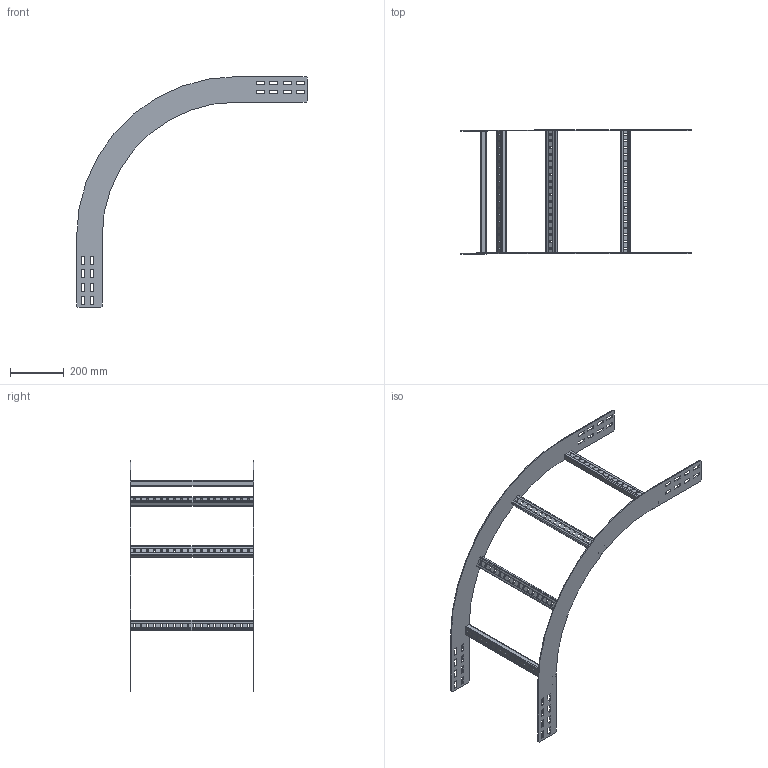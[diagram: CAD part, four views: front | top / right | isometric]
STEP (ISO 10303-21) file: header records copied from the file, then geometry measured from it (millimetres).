
FILE_DESCRIPTION(('Creo Elements/Direct Modeling STEP Export'),'2;1');
FILE_NAME('WPOR10-45-90-45-HDG.stp','2016-11-10T14:45:10',(''),(''),'PTC Creo Elements/Direct Modeling STEP processor for AP214 (Solid Model)','PTC Creo Elements/Direct Modeling 19.0C 15-Aug-2015 (C) Parametric Technology GmbH','');
FILE_SCHEMA(('AUTOMOTIVE_DESIGN { 1 0 10303 214 1 1 1 1 }'));
Length unit declared in the file: millimetre
Products named in the file (3): WPIBG100_450.1; WPHBS45.1.4.1; WPOR10-45-90-45
Assembly tree (6 placements, depth 2):
  WPOR10-45-90-45
    WPHBS45.1.4.1  x4
    WPIBG100_450.1  x2
Bounding box: 860 x 461 x 860 mm (x, y, z)
Volume: 1024511.9 mm3; surface area: 896883.8 mm2
Topology: 6 solids, 6 shells, 604 faces, 1776 edges, 1184 vertices
Faces by surface type: plane 384, cylinder 220
Entity records: 6532 total; most frequent: CARTESIAN_POINT 1126, ORIENTED_EDGE 1116, DIRECTION 1062, EDGE_CURVE 558, VECTOR 446, LINE 446, VERTEX_POINT 372, AXIS2_PLACEMENT_3D 308
